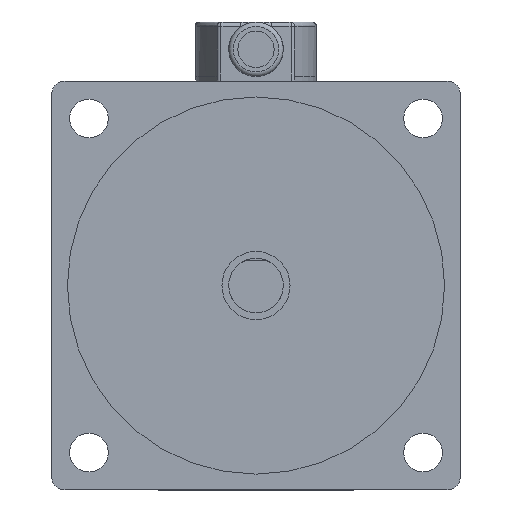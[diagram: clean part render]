
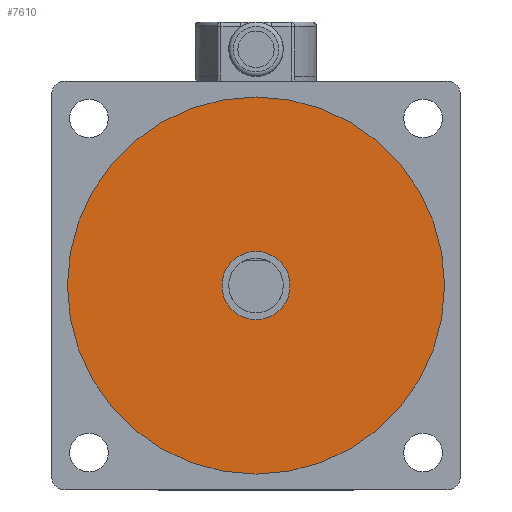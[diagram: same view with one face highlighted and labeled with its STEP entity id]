
A CAD part, front view. The second image highlights one B-rep face of the part: STEP entity #7610.
In plain terms, the highlighted planar face has unit normal (0, -1, 0).
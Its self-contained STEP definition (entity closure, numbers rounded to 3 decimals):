
#1378=ORIENTED_EDGE('',*,*,#2927,.T.);
#1379=ORIENTED_EDGE('',*,*,#2926,.F.);
#2926=EDGE_CURVE('',#3695,#3695,#4212,.T.);
#2927=EDGE_CURVE('',#3696,#3696,#4213,.T.);
#3695=VERTEX_POINT('',#10083);
#3696=VERTEX_POINT('',#10086);
#4212=CIRCLE('',#7985,41.5);
#4213=CIRCLE('',#7987,7.5);
#4391=EDGE_LOOP('',(#1378));
#4392=EDGE_LOOP('',(#1379));
#4807=FACE_BOUND('',#4391,.T.);
#4808=FACE_BOUND('',#4392,.T.);
#5212=PLANE('',#7986);
#7610=ADVANCED_FACE('',(#4807,#4808),#5212,.F.);
#7985=AXIS2_PLACEMENT_3D('',#10082,#8553,#8554);
#7986=AXIS2_PLACEMENT_3D('',#10084,#8555,#8556);
#7987=AXIS2_PLACEMENT_3D('',#10085,#8557,#8558);
#8553=DIRECTION('',(0.,1.,0.));
#8554=DIRECTION('',(1.,0.,0.));
#8555=DIRECTION('',(0.,1.,0.));
#8556=DIRECTION('',(0.,0.,1.));
#8557=DIRECTION('',(0.,1.,0.));
#8558=DIRECTION('',(0.,0.,1.));
#10082=CARTESIAN_POINT('',(0.,-12.,0.));
#10083=CARTESIAN_POINT('',(41.5,-12.,0.));
#10084=CARTESIAN_POINT('',(0.,-12.,0.));
#10085=CARTESIAN_POINT('',(0.,-12.,0.));
#10086=CARTESIAN_POINT('',(0.,-12.,7.5));
